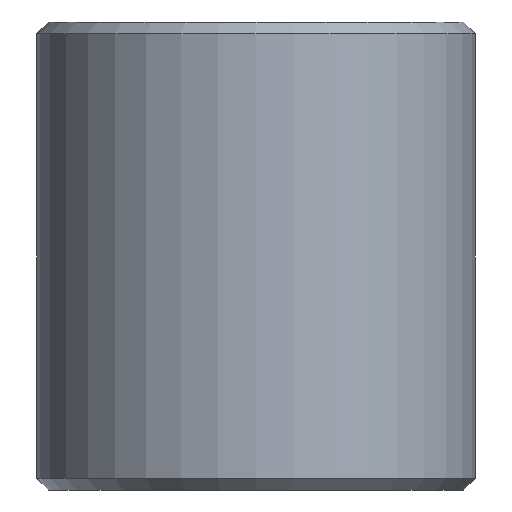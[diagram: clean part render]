
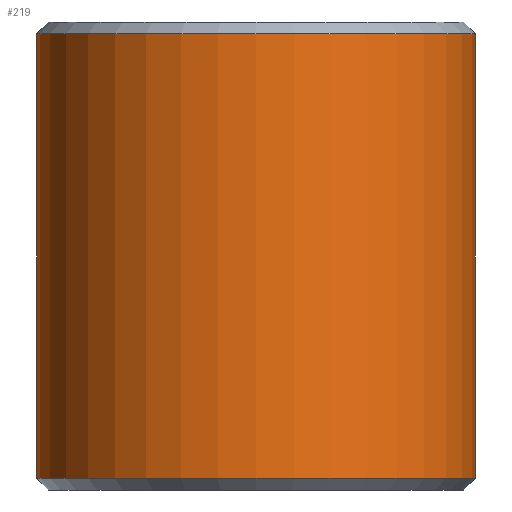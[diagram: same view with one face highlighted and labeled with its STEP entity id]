
A CAD part, front view. The second image highlights one B-rep face of the part: STEP entity #219.
In plain terms, the highlighted cylindrical face has radius 30 mm (diameter 60 mm), a partial arc.
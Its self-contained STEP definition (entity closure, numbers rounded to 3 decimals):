
#7 = CARTESIAN_POINT ( 'NONE',  ( 0., 0., 32. ) ) ;
#8 = ORIENTED_EDGE ( 'NONE', *, *, #403, .T. ) ;
#9 = VERTEX_POINT ( 'NONE', #113 ) ;
#39 = DIRECTION ( 'NONE',  ( -1., 0., 0. ) ) ;
#57 = DIRECTION ( 'NONE',  ( 0., 0., 1. ) ) ;
#78 = FACE_OUTER_BOUND ( 'NONE', #283, .T. ) ;
#80 = CIRCLE ( 'NONE', #333, 30. ) ;
#86 = VECTOR ( 'NONE', #242, 1000. ) ;
#99 = CYLINDRICAL_SURFACE ( 'NONE', #350, 30. ) ;
#100 = CARTESIAN_POINT ( 'NONE',  ( -30., 0., -30.4 ) ) ;
#113 = CARTESIAN_POINT ( 'NONE',  ( -30., 0., 30.4 ) ) ;
#119 = CARTESIAN_POINT ( 'NONE',  ( 0., 0., 30.4 ) ) ;
#142 = DIRECTION ( 'NONE',  ( 0., 0., -1. ) ) ;
#162 = CARTESIAN_POINT ( 'NONE',  ( 0., 0., -30.4 ) ) ;
#170 = CIRCLE ( 'NONE', #323, 30. ) ;
#175 = VERTEX_POINT ( 'NONE', #349 ) ;
#190 = EDGE_CURVE ( 'NONE', #241, #175, #278, .T. ) ;
#213 = ORIENTED_EDGE ( 'NONE', *, *, #372, .T. ) ;
#219 = ADVANCED_FACE ( 'NONE', ( #78 ), #99, .T. ) ;
#227 = DIRECTION ( 'NONE',  ( 0., 0., -1. ) ) ;
#231 = DIRECTION ( 'NONE',  ( 1., 0., 0. ) ) ;
#241 = VERTEX_POINT ( 'NONE', #314 ) ;
#242 = DIRECTION ( 'NONE',  ( 0., 0., -1. ) ) ;
#259 = DIRECTION ( 'NONE',  ( 0., 0., -1. ) ) ;
#263 = VECTOR ( 'NONE', #227, 1000. ) ;
#278 = LINE ( 'NONE', #421, #86 ) ;
#283 = EDGE_LOOP ( 'NONE', ( #355, #8, #386, #213 ) ) ;
#293 = EDGE_CURVE ( 'NONE', #9, #424, #405, .T. ) ;
#297 = DIRECTION ( 'NONE',  ( 1., 0., 0. ) ) ;
#314 = CARTESIAN_POINT ( 'NONE',  ( 30., 0., 30.4 ) ) ;
#323 = AXIS2_PLACEMENT_3D ( 'NONE', #162, #57, #297 ) ;
#333 = AXIS2_PLACEMENT_3D ( 'NONE', #119, #259, #231 ) ;
#335 = CARTESIAN_POINT ( 'NONE',  ( -30., 0., 32. ) ) ;
#349 = CARTESIAN_POINT ( 'NONE',  ( 30., 0., -30.4 ) ) ;
#350 = AXIS2_PLACEMENT_3D ( 'NONE', #7, #142, #39 ) ;
#355 = ORIENTED_EDGE ( 'NONE', *, *, #190, .F. ) ;
#372 = EDGE_CURVE ( 'NONE', #424, #175, #170, .T. ) ;
#386 = ORIENTED_EDGE ( 'NONE', *, *, #293, .T. ) ;
#403 = EDGE_CURVE ( 'NONE', #241, #9, #80, .T. ) ;
#405 = LINE ( 'NONE', #335, #263 ) ;
#421 = CARTESIAN_POINT ( 'NONE',  ( 30., 0., 32. ) ) ;
#424 = VERTEX_POINT ( 'NONE', #100 ) ;
